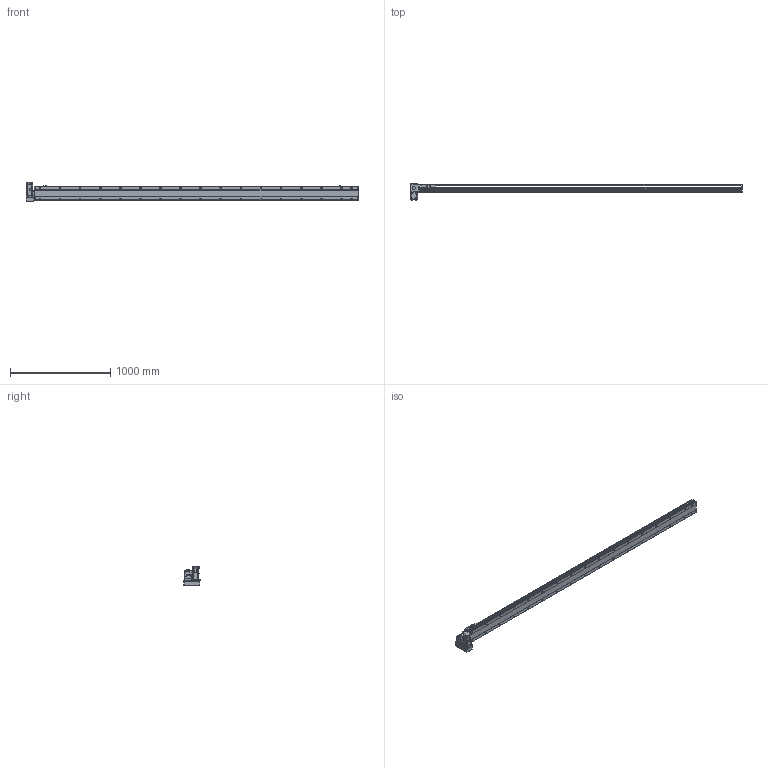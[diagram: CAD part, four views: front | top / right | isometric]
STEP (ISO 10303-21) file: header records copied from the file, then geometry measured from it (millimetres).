
FILE_DESCRIPTION(/* description */ ('STEP AP214'),/* implementation_level */ '2;1');
FILE_NAME(/* name */ 'PBS140-P40-S2950-LD-T40-C1-N(0)',/* time_stamp */ '2022-06-06T07:59:16+02:00',/* author */ ('License CC BY-ND 4.0'),/* organization */ ('CADENAS'),/* preprocessor_version */ 'ST-DEVELOPER v18.102',/* originating_system */ 'PARTsolutions',/* authorisation */ ' ');
FILE_SCHEMA (('AUTOMOTIVE_DESIGN {1 0 10303 214 3 1 1}'));
Length unit declared in the file: millimetre
Products named in the file (7): PBS140-P40-S2950-LD-T40-C1-N(0); PBS140_sensor; PBS140_plant; PBS140_sliser; T40-p1; PBS140T-LD_motors; PBS140-S2950()_body
Assembly tree (8 placements, depth 2):
  PBS140-P40-S2950-LD-T40-C1-N(0)
    PBS140_sensor  x3
    PBS140_plant
    PBS140_sliser
    T40-p1
    PBS140T-LD_motors
    PBS140-S2950()_body
Bounding box: 3304 x 162 x 189.7 mm (x, y, z)
Volume: 14686138.2 mm3; surface area: 2492400 mm2
Topology: 8 solids, 8 shells, 1219 faces, 3196 edges, 2087 vertices
Faces by surface type: plane 746, cylinder 403, cone 60, sphere 8, torus 2
Full cylindrical faces by diameter (mm): 3.242 x4, 4 x2, 4.134 x4, 4.4 x8, 4.5 x2, 4.8 x4, 4.917 x42, 5.5 x7, 6 x2, 7 x36, 7.5 x8, 8 x12, 8.5 x4, 10.5 x34, 14 x1, 30 x2, 50 x2
Entity records: 34767 total; most frequent: CARTESIAN_POINT 6673, DIRECTION 5827, ORIENTED_EDGE 5452, EDGE_CURVE 2726, AXIS2_PLACEMENT_3D 2077, VERTEX_POINT 1917, LINE 1673, VECTOR 1673
